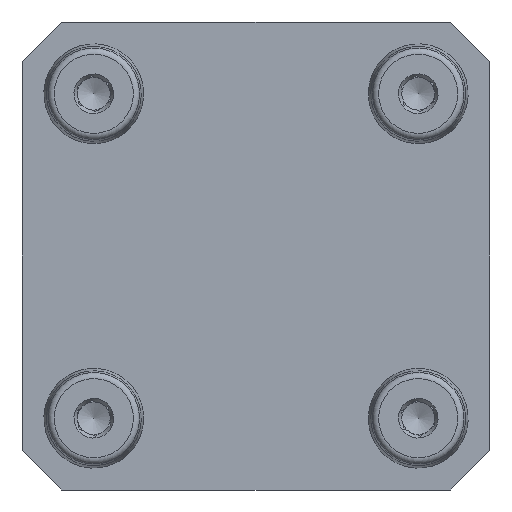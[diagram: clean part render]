
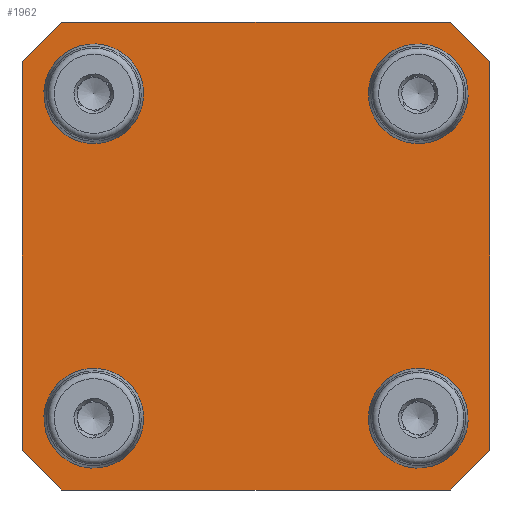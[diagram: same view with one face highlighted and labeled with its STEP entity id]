
A CAD part, front view. The second image highlights one B-rep face of the part: STEP entity #1962.
In plain terms, the highlighted planar face has unit normal (0, -1, 0).
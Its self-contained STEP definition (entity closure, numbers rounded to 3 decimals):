
#25 = CARTESIAN_POINT ( 'NONE',  ( -26., -40., -32.008 ) ) ;
#30 = VECTOR ( 'NONE', #326, 1000. ) ;
#36 = EDGE_CURVE ( 'NONE', #54, #1376, #556, .T. ) ;
#54 = VERTEX_POINT ( 'NONE', #1456 ) ;
#56 = VERTEX_POINT ( 'NONE', #2075 ) ;
#73 = VERTEX_POINT ( 'NONE', #341 ) ;
#131 = EDGE_CURVE ( 'NONE', #73, #260, #2145, .T. ) ;
#142 = EDGE_LOOP ( 'NONE', ( #1132 ) ) ;
#148 = EDGE_CURVE ( 'NONE', #163, #163, #1281, .T. ) ;
#163 = VERTEX_POINT ( 'NONE', #1633 ) ;
#181 = CARTESIAN_POINT ( 'NONE',  ( 0., -40., 0. ) ) ;
#219 = LINE ( 'NONE', #1693, #245 ) ;
#245 = VECTOR ( 'NONE', #1171, 1000. ) ;
#256 = ORIENTED_EDGE ( 'NONE', *, *, #2118, .F. ) ;
#260 = VERTEX_POINT ( 'NONE', #945 ) ;
#270 = CARTESIAN_POINT ( 'NONE',  ( -31.15, -40., 37.5 ) ) ;
#315 = DIRECTION ( 'NONE',  ( 0., 0., 1. ) ) ;
#326 = DIRECTION ( 'NONE',  ( 0.707, 0., -0.707 ) ) ;
#341 = CARTESIAN_POINT ( 'NONE',  ( -37.5, -40., -31.15 ) ) ;
#377 = FACE_OUTER_BOUND ( 'NONE', #2270, .T. ) ;
#388 = CARTESIAN_POINT ( 'NONE',  ( 31.15, -40., 37.5 ) ) ;
#412 = VERTEX_POINT ( 'NONE', #25 ) ;
#431 = CARTESIAN_POINT ( 'NONE',  ( 37.5, -40., 31.15 ) ) ;
#436 = VECTOR ( 'NONE', #1617, 1000. ) ;
#456 = DIRECTION ( 'NONE',  ( 0., 0., -1. ) ) ;
#494 = CARTESIAN_POINT ( 'NONE',  ( -31.15, -40., -37.5 ) ) ;
#497 = LINE ( 'NONE', #1387, #775 ) ;
#517 = AXIS2_PLACEMENT_3D ( 'NONE', #807, #1574, #1701 ) ;
#522 = EDGE_LOOP ( 'NONE', ( #2304 ) ) ;
#528 = EDGE_CURVE ( 'NONE', #1376, #73, #1452, .T. ) ;
#538 = DIRECTION ( 'NONE',  ( 0., -1., 0. ) ) ;
#552 = EDGE_CURVE ( 'NONE', #2229, #1169, #918, .T. ) ;
#556 = LINE ( 'NONE', #494, #436 ) ;
#647 = DIRECTION ( 'NONE',  ( 0., 0., -1. ) ) ;
#660 = DIRECTION ( 'NONE',  ( 0.707, 0., 0.707 ) ) ;
#728 = DIRECTION ( 'NONE',  ( 0., -1., 0. ) ) ;
#743 = EDGE_CURVE ( 'NONE', #260, #2229, #2305, .T. ) ;
#749 = DIRECTION ( 'NONE',  ( 1., 0., 0. ) ) ;
#775 = VECTOR ( 'NONE', #1025, 1000. ) ;
#785 = CARTESIAN_POINT ( 'NONE',  ( -31.15, -40., 37.5 ) ) ;
#807 = CARTESIAN_POINT ( 'NONE',  ( 26., -40., 26. ) ) ;
#900 = DIRECTION ( 'NONE',  ( 0., -1., 0. ) ) ;
#918 = LINE ( 'NONE', #1678, #1846 ) ;
#932 = ORIENTED_EDGE ( 'NONE', *, *, #36, .F. ) ;
#943 = CARTESIAN_POINT ( 'NONE',  ( 37.5, -40., 31.15 ) ) ;
#945 = CARTESIAN_POINT ( 'NONE',  ( -37.5, -40., 31.15 ) ) ;
#1025 = DIRECTION ( 'NONE',  ( -0.707, 0., -0.707 ) ) ;
#1050 = EDGE_CURVE ( 'NONE', #1347, #1555, #219, .T. ) ;
#1056 = ORIENTED_EDGE ( 'NONE', *, *, #528, .F. ) ;
#1081 = ORIENTED_EDGE ( 'NONE', *, *, #743, .F. ) ;
#1087 = FACE_BOUND ( 'NONE', #522, .T. ) ;
#1099 = FACE_BOUND ( 'NONE', #142, .T. ) ;
#1123 = DIRECTION ( 'NONE',  ( 0., 0., -1. ) ) ;
#1132 = ORIENTED_EDGE ( 'NONE', *, *, #1685, .F. ) ;
#1169 = VERTEX_POINT ( 'NONE', #388 ) ;
#1171 = DIRECTION ( 'NONE',  ( 0., 0., -1. ) ) ;
#1201 = AXIS2_PLACEMENT_3D ( 'NONE', #2187, #538, #456 ) ;
#1281 = CIRCLE ( 'NONE', #1395, 6.008 ) ;
#1296 = DIRECTION ( 'NONE',  ( -0.707, 0., 0.707 ) ) ;
#1306 = PLANE ( 'NONE',  #2136 ) ;
#1336 = ORIENTED_EDGE ( 'NONE', *, *, #131, .F. ) ;
#1347 = VERTEX_POINT ( 'NONE', #943 ) ;
#1376 = VERTEX_POINT ( 'NONE', #2267 ) ;
#1385 = ORIENTED_EDGE ( 'NONE', *, *, #1807, .F. ) ;
#1387 = CARTESIAN_POINT ( 'NONE',  ( 31.15, -40., -37.5 ) ) ;
#1395 = AXIS2_PLACEMENT_3D ( 'NONE', #2330, #728, #1123 ) ;
#1452 = LINE ( 'NONE', #1475, #1955 ) ;
#1456 = CARTESIAN_POINT ( 'NONE',  ( 31.15, -40., -37.5 ) ) ;
#1463 = EDGE_LOOP ( 'NONE', ( #1812 ) ) ;
#1475 = CARTESIAN_POINT ( 'NONE',  ( -37.5, -40., -31.15 ) ) ;
#1517 = VECTOR ( 'NONE', #660, 1000. ) ;
#1555 = VERTEX_POINT ( 'NONE', #2120 ) ;
#1574 = DIRECTION ( 'NONE',  ( 0., -1., 0. ) ) ;
#1617 = DIRECTION ( 'NONE',  ( -1., 0., 0. ) ) ;
#1633 = CARTESIAN_POINT ( 'NONE',  ( -26., -40., 19.992 ) ) ;
#1665 = ORIENTED_EDGE ( 'NONE', *, *, #552, .F. ) ;
#1678 = CARTESIAN_POINT ( 'NONE',  ( 31.15, -40., 37.5 ) ) ;
#1681 = FACE_BOUND ( 'NONE', #1463, .T. ) ;
#1685 = EDGE_CURVE ( 'NONE', #56, #56, #1976, .T. ) ;
#1693 = CARTESIAN_POINT ( 'NONE',  ( 37.5, -40., -31.15 ) ) ;
#1694 = VERTEX_POINT ( 'NONE', #1878 ) ;
#1701 = DIRECTION ( 'NONE',  ( 0., 0., -1. ) ) ;
#1708 = VECTOR ( 'NONE', #315, 1000. ) ;
#1715 = LINE ( 'NONE', #431, #30 ) ;
#1805 = CARTESIAN_POINT ( 'NONE',  ( 26., -40., -26. ) ) ;
#1807 = EDGE_CURVE ( 'NONE', #1169, #1347, #1715, .T. ) ;
#1812 = ORIENTED_EDGE ( 'NONE', *, *, #1952, .F. ) ;
#1830 = AXIS2_PLACEMENT_3D ( 'NONE', #1805, #2294, #647 ) ;
#1831 = FACE_BOUND ( 'NONE', #2264, .T. ) ;
#1846 = VECTOR ( 'NONE', #749, 1000. ) ;
#1878 = CARTESIAN_POINT ( 'NONE',  ( 26., -40., -32.008 ) ) ;
#1907 = ORIENTED_EDGE ( 'NONE', *, *, #1050, .F. ) ;
#1952 = EDGE_CURVE ( 'NONE', #1694, #1694, #2021, .T. ) ;
#1955 = VECTOR ( 'NONE', #1296, 1000. ) ;
#1958 = CARTESIAN_POINT ( 'NONE',  ( -37.5, -40., 31.15 ) ) ;
#1962 = ADVANCED_FACE ( 'NONE', ( #1831, #1099, #1681, #1087, #377 ), #1306, .T. ) ;
#1976 = CIRCLE ( 'NONE', #517, 6.008 ) ;
#2021 = CIRCLE ( 'NONE', #1830, 6.008 ) ;
#2034 = DIRECTION ( 'NONE',  ( 0., 0., -1. ) ) ;
#2075 = CARTESIAN_POINT ( 'NONE',  ( 26., -40., 19.992 ) ) ;
#2082 = ORIENTED_EDGE ( 'NONE', *, *, #2273, .F. ) ;
#2118 = EDGE_CURVE ( 'NONE', #412, #412, #2238, .T. ) ;
#2120 = CARTESIAN_POINT ( 'NONE',  ( 37.5, -40., -31.15 ) ) ;
#2136 = AXIS2_PLACEMENT_3D ( 'NONE', #181, #900, #2034 ) ;
#2145 = LINE ( 'NONE', #1958, #1708 ) ;
#2187 = CARTESIAN_POINT ( 'NONE',  ( -26., -40., -26. ) ) ;
#2229 = VERTEX_POINT ( 'NONE', #785 ) ;
#2238 = CIRCLE ( 'NONE', #1201, 6.008 ) ;
#2264 = EDGE_LOOP ( 'NONE', ( #256 ) ) ;
#2267 = CARTESIAN_POINT ( 'NONE',  ( -31.15, -40., -37.5 ) ) ;
#2270 = EDGE_LOOP ( 'NONE', ( #1056, #932, #2082, #1907, #1385, #1665, #1081, #1336 ) ) ;
#2273 = EDGE_CURVE ( 'NONE', #1555, #54, #497, .T. ) ;
#2294 = DIRECTION ( 'NONE',  ( 0., -1., 0. ) ) ;
#2304 = ORIENTED_EDGE ( 'NONE', *, *, #148, .F. ) ;
#2305 = LINE ( 'NONE', #270, #1517 ) ;
#2330 = CARTESIAN_POINT ( 'NONE',  ( -26., -40., 26. ) ) ;
